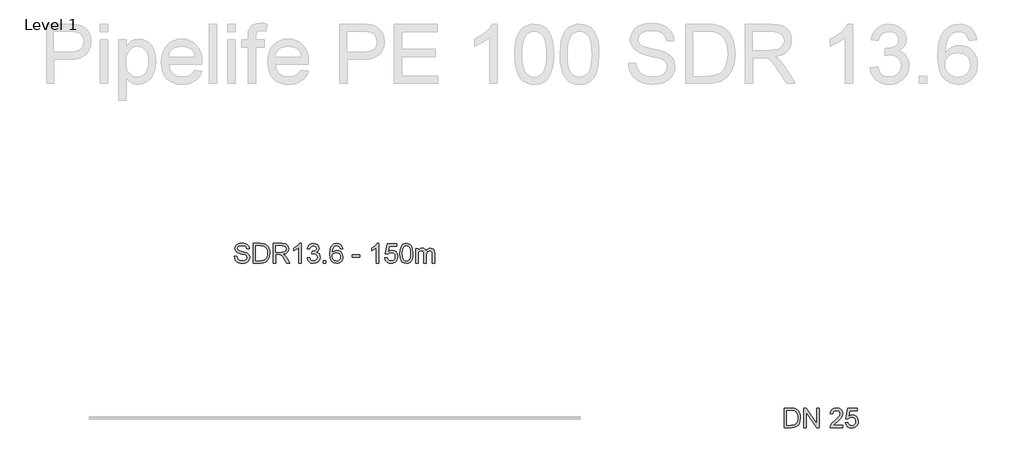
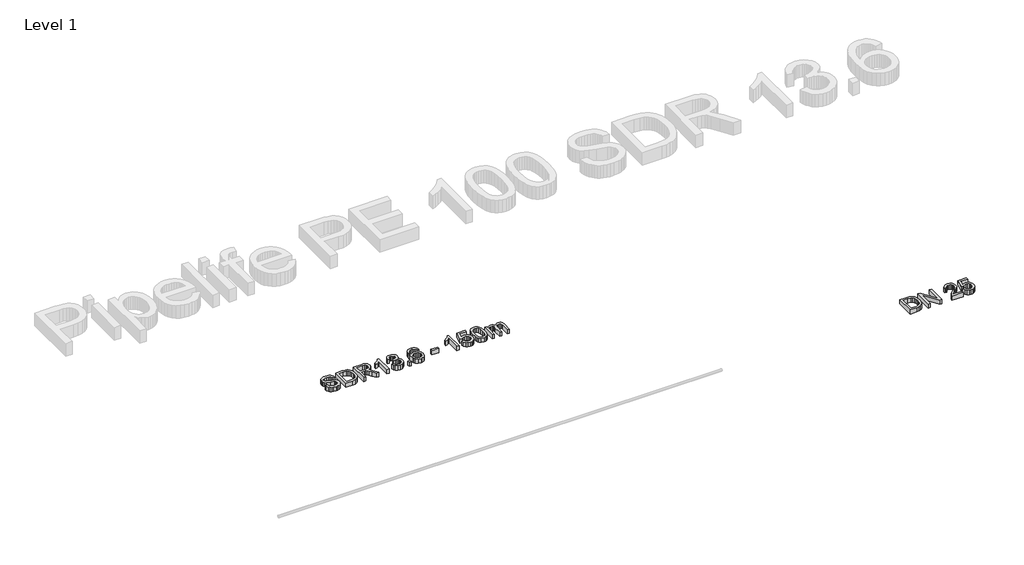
# One storey, part 16 of 26: 2 proxies.
"""IFC4 building model written with IfcOpenShell, lengths in millimetres."""

import ifcopenshell
import ifcopenshell.guid

model = None  # the IFC model being written
_history = None  # IfcOwnerHistory: only IFC2X3 demands one
_inside = {}  # id of a spatial element -> (the spatial element, [elements in it])
_under = {}  # id of a project, library or spatial element -> (it, [spatial elements below it])
_declared = {}  # id of a project -> (the project, [libraries it declares])
_typed = {}  # id of a type object -> (the type object, [elements of that type])
_made_of = {}  # id of a material, layer set ... -> (it, [elements and type objects made of it])


def new_model(schema):
    """Start an empty IFC model of exactly this schema.

    Asked for "IFC4X3", IfcOpenShell would pick the latest addendum, in which some entities
    have other attributes; the version numbers below select the first issue.
    IFC2X3 requires an IfcOwnerHistory on every rooted entity: one is made here for all.
    """
    global model, _history
    if schema == "IFC4X3":
        model = ifcopenshell.file(schema_version=(4, 3, 0, 0))
    else:
        model = ifcopenshell.file(schema=schema)
    _inside.clear()
    _under.clear()
    _declared.clear()
    _typed.clear()
    _made_of.clear()
    _history = None
    if model.schema == "IFC2X3":
        org = make("IfcOrganization", Name="unknown")
        user = make(
            "IfcPersonAndOrganization",
            ThePerson=make("IfcPerson", FamilyName="unknown"),
            TheOrganization=org,
        )
        app = make(
            "IfcApplication",
            ApplicationDeveloper=org,
            Version="unknown",
            ApplicationFullName="unknown",
            ApplicationIdentifier="unknown",
        )
        _history = make(
            "IfcOwnerHistory",
            OwningUser=user,
            OwningApplication=app,
            ChangeAction="ADDED",
            CreationDate=0,
        )
    return model


def make(cls, **values):
    """One entity of the class cls with the attributes given. An attribute that is None is left unset."""
    return model.create_entity(
        cls, **{name: value for name, value in values.items() if value is not None}
    )


def rooted(cls, **values):
    """An entity with a GlobalId (a new one), such as an element, a storey or a relation."""
    return make(cls, GlobalId=ifcopenshell.guid.new(), OwnerHistory=_history, **values)


def si_unit(unit_type, name, prefix=None):
    """IfcSIUnit, for example si_unit("LENGTHUNIT", "METRE", prefix="MILLI")."""
    return make("IfcSIUnit", UnitType=unit_type, Prefix=prefix, Name=name)


def assignment(units):
    """IfcUnitAssignment: the units of a project."""
    return None if units is None else make("IfcUnitAssignment", Units=units)


def point(xyz):
    """IfcCartesianPoint."""
    return None if xyz is None else make("IfcCartesianPoint", Coordinates=xyz)


def direction(xyz):
    """IfcDirection."""
    return None if xyz is None else make("IfcDirection", DirectionRatios=xyz)


def frame(location, z_axis=None, x_axis=None):
    """IfcAxis2Placement3D, a coordinate frame: its origin and axes. An axis left out is left unset."""
    return make(
        "IfcAxis2Placement3D",
        Location=point(location),
        Axis=direction(z_axis),
        RefDirection=direction(x_axis),
    )


def origin():
    """The frame at (0, 0, 0) with its axes left unset."""
    return frame((0.0, 0.0, 0.0))


def origin_with_axes():
    """The frame at (0, 0, 0) with the z axis (0, 0, 1) and the x axis (1, 0, 0) written out."""
    return frame((0.0, 0.0, 0.0), z_axis=(0.0, 0.0, 1.0), x_axis=(1.0, 0.0, 0.0))


def place(relative_to, where):
    """IfcLocalPlacement: puts the frame where relative to a parent placement (None: the world)."""
    return make(
        "IfcLocalPlacement", PlacementRelTo=relative_to, RelativePlacement=where
    )


def context(
    kind, dimensions, precision=None, world=None, true_north=None, identifier=None
):
    """IfcGeometricRepresentationContext, for example the 3D "Model" context."""
    return make(
        "IfcGeometricRepresentationContext",
        ContextIdentifier=identifier,
        ContextType=kind,
        CoordinateSpaceDimension=dimensions,
        Precision=precision,
        WorldCoordinateSystem=world,
        TrueNorth=true_north,
    )


def project(units=None, contexts=None):
    """IfcProject with its units and contexts."""
    return rooted(
        "IfcProject",
        Name="project",
        RepresentationContexts=contexts,
        UnitsInContext=assignment(units),
    )


def spatial(cls, under=None, at=None, **own):
    """A site, building, storey or space (cls), placed at a placement, below another one or the project."""
    s = rooted(cls, ObjectPlacement=at, **own)
    if under is not None:
        _under.setdefault(under.id(), (under, []))[1].append(s)
    return s


def polyline(points):
    """IfcPolyline through the points."""
    return make("IfcPolyline", Points=[point(p) for p in points])


def outline(outer, holes=None, kind="AREA"):
    """IfcArbitraryClosedProfileDef: a profile drawn as a closed curve; with holes, ...WithVoids."""
    if holes is None:
        return make("IfcArbitraryClosedProfileDef", ProfileType=kind, OuterCurve=outer)
    return make(
        "IfcArbitraryProfileDefWithVoids",
        ProfileType=kind,
        OuterCurve=outer,
        InnerCurves=holes,
    )


def extrude(swept, where, along, depth):
    """IfcExtrudedAreaSolid: the profile swept, set in the frame where, extruded along a direction by depth."""
    return make(
        "IfcExtrudedAreaSolid",
        SweptArea=swept,
        Position=where,
        ExtrudedDirection=direction(along),
        Depth=depth,
    )


def shape(context_of_items, identifier, shape_type, items):
    """IfcShapeRepresentation: the items that make up one representation, for example the "Body"."""
    return make(
        "IfcShapeRepresentation",
        ContextOfItems=context_of_items,
        RepresentationIdentifier=identifier,
        RepresentationType=shape_type,
        Items=items,
    )


def made_of(thing, what):
    """Note that an element or type object is made of a material, layer set ...; save() writes the relation."""
    if what is not None:
        _made_of.setdefault(what.id(), (what, []))[1].append(thing)
    return thing


def element(
    cls,
    number,
    at=None,
    inside=None,
    cuts=None,
    type_object=None,
    material=None,
    context=None,
    identifier="Body",
    shape_type=None,
    held_by="IfcProductDefinitionShape",
    body=None,
    shapes=None,
    **own,
):
    """One element of the class cls, such as IfcWall. Its Tag is "e" and its number.

    at: its placement. inside: the storey or other place that contains it. cuts: it is an
    opening in that element (IfcRelVoidsElement). A single representation is given by context,
    identifier, shape_type and body (its items); several are given by shapes. held_by: the class
    of the entity that holds the representations. save() writes the other relations.
    """
    e = rooted(cls, Tag="e%d" % number, ObjectPlacement=at, **own)
    if body is not None:
        shapes = [shape(context, identifier, shape_type, body)]
    if shapes is not None:
        e.Representation = make(held_by, Representations=shapes)
    if inside is not None:
        _inside.setdefault(inside.id(), (inside, []))[1].append(e)
    if cuts is not None:
        rooted(
            "IfcRelVoidsElement", RelatingBuildingElement=cuts, RelatedOpeningElement=e
        )
    if type_object is not None:
        _typed.setdefault(type_object.id(), (type_object, []))[1].append(e)
    return made_of(e, material)


def aggregate(whole, parts):
    """IfcRelAggregates: a whole, such as a stair, and the parts it consists of."""
    return rooted("IfcRelAggregates", RelatingObject=whole, RelatedObjects=parts)


def save(model, path):
    """Write the relations noted so far, then the file.

    IfcRelAggregates (storeys below a building ...), IfcRelContainedInSpatialStructure (elements
    in a storey), IfcRelDefinesByType, IfcRelAssociatesMaterial and IfcRelDeclares: one each for
    every whole, place, type object, material and project.
    """
    for whole, parts in _under.values():
        aggregate(whole, parts)
    for where, things in _inside.values():
        rooted(
            "IfcRelContainedInSpatialStructure",
            RelatedElements=things,
            RelatingStructure=where,
        )
    for kind, things in _typed.values():
        rooted("IfcRelDefinesByType", RelatedObjects=things, RelatingType=kind)
    for what, things in _made_of.values():
        rooted("IfcRelAssociatesMaterial", RelatedObjects=things, RelatingMaterial=what)
    for by, libraries in _declared.values():
        rooted("IfcRelDeclares", RelatingContext=by, RelatedDefinitions=libraries)
    model.write(path)


model = new_model("IFC4")

# Units and contexts
model_context = context("Model", 3, world=origin())
ifc_project = project(units=[si_unit("LENGTHUNIT", "METRE", prefix="MILLI")], contexts=[model_context])

# Site, building, storey
site = spatial("IfcSite", under=ifc_project)
building = spatial("IfcBuilding", under=site)
storey = spatial("IfcBuildingStorey", under=building, Name="Level 1", Elevation=0.0)

# Proxies
placement = place(None, origin())
element("IfcBuildingElementProxy", 1, Name="200mm Arial", ObjectType="200mm Arial", at=placement, inside=storey, context=model_context, shape_type="SweptSolid", body=[
    extrude(outline(polyline([(-15056.0657849, -27668.9871574), (-15030.9517073, -27668.9871574), (-15022.8583034, -27694.1257604), (-15014.7281113, -27703.016242), (-15003.0907776, -27710.0182626), (-14988.8660071, -27714.5616053), (-14972.9735049, -27716.0760528), (-14946.7312559, -27711.4897906), (-14929.7841587, -27698.8837009), (-14924.2168778, -27682.0347055), (-14928.3862071, -27666.3629325), (-14934.7383029, -27660.1641209), (-14945.4559316, -27654.9585907), (-14982.023402, -27645.3691333), (-15021.3867755, -27632.9837728), (-15033.8886319, -27624.5347497), (-15042.7484566, -27614.2953675), (-15048.0275633, -27602.4863554), (-15049.7872655, -27589.3284427), (-15047.6106303, -27574.6192943), (-15041.0807249, -27560.9034272), (-15030.3692275, -27549.2783562), (-15015.6478163, -27540.8415958), (-14997.9772178, -27535.7096419), (-14978.4181584, -27533.9989907), (-14957.2281555, -27535.7893497), (-14938.6869029, -27541.1604268), (-14923.4565883, -27550.0018575), (-14912.1993993, -27562.203277), (-14905.0747513, -27577.0043959), (-14902.2420599, -27593.6449248), (-14927.3561375, -27593.6449248), (-14931.9669252, -27578.6598649), (-14941.580908, -27567.8441342), (-14956.6027561, -27561.2958347), (-14977.4371398, -27559.1130682), (-14998.7620327, -27561.2713092), (-15013.3914734, -27567.7460324), (-15021.8527593, -27577.274176), (-15024.6731879, -27588.5926788), (-15022.6743624, -27598.2434498), (-15016.6778859, -27606.0057599), (-15002.5021664, -27612.9464668), (-14975.6713062, -27620.0343266), (-14931.2311612, -27632.6404163), (-14916.9144202, -27641.7516271), (-14906.926424, -27652.9965534), (-14901.0587062, -27666.2525679), (-14899.1028003, -27681.3970434), (-14901.3530118, -27696.878744), (-14908.1036464, -27711.4407397), (-14919.0787926, -27723.973253), (-14934.0025389, -27733.3665066), (-14951.9490489, -27739.2342244), (-14971.9924862, -27741.1901304), (-14996.5976603, -27739.0809402), (-15016.8495642, -27732.7533699), (-15032.9811897, -27722.1828939), (-15045.2255287, -27707.3449868), (-15053.0859407, -27689.2697181), (-15056.0657849, -27668.9871574)])), origin_with_axes(), (0.0, 0.0, 1.0), 50.0),
    extrude(outline(polyline([(-14861.431684, -27738.0508707), (-14861.431684, -27537.1382504), (-14792.1227161, -27537.1382504), (-14756.2664843, -27540.0322554), (-14740.2513547, -27545.611799), (-14726.7378228, -27554.4041787), (-14712.8441461, -27569.7080697), (-14702.9481204, -27588.7398315), (-14697.0252203, -27611.1315823), (-14695.0509203, -27636.51544), (-14700.3974719, -27677.0560359), (-14714.1317331, -27706.3149172), (-14732.4767819, -27724.5373387), (-14756.4872135, -27734.6173054), (-14788.7872526, -27738.0508707), (-14861.431684, -27738.0508707)]), holes=[polyline([(-14836.3176064, -27712.9367931), (-14791.8774614, -27712.9367931), (-14759.5528968, -27709.3070241), (-14740.9135423, -27699.0553792), (-14732.1886077, -27688.1844662), (-14725.6341768, -27674.1129799), (-14721.5322926, -27656.7796066), (-14720.1649978, -27636.1230325), (-14722.844405, -27608.7526121), (-14730.8826266, -27588.5436278), (-14742.7590837, -27574.6622139), (-14756.9531973, -27566.2745044), (-14792.5641745, -27562.2523279), (-14836.3176064, -27562.2523279), (-14836.3176064, -27712.9367931)])]), origin_with_axes(), (0.0, 0.0, 1.0), 50.0),
    extrude(outline(polyline([(-14660.5190637, -27738.0508707), (-14660.5190637, -27537.1382504), (-14573.9441675, -27537.1382504), (-14550.6756313, -27538.4932824), (-14533.7469281, -27542.5583784), (-14521.3738303, -27550.0631711), (-14511.7721103, -27561.7372931), (-14505.6100868, -27576.2134496), (-14503.556079, -27592.1243459), (-14506.9589875, -27611.9163972), (-14517.1677129, -27628.3239342), (-14534.4888235, -27640.3536755), (-14559.2288876, -27647.0123396), (-14544.9550662, -27657.7544938), (-14524.5989292, -27683.6043354), (-14491.0971421, -27738.0508707), (-14520.2824471, -27738.0508707), (-14546.4265942, -27696.4066288), (-14565.3112033, -27668.8400046), (-14578.5794806, -27655.816982), (-14590.5233827, -27651.0345161), (-14605.0915097, -27650.1515993), (-14635.4049861, -27650.1515993), (-14635.4049861, -27738.0508707), (-14660.5190637, -27738.0508707)]), holes=[polyline([(-14635.4049861, -27625.0375217), (-14579.1926173, -27625.0375217), (-14550.5223471, -27621.4813291), (-14541.0923053, -27616.8582787), (-14534.2374374, -27610.1015127), (-14528.6701566, -27593.0563136), (-14531.3250383, -27580.8058432), (-14539.2896835, -27570.934343), (-14552.9932878, -27564.4228317), (-14572.8650469, -27562.2523279), (-14635.4049861, -27562.2523279), (-14635.4049861, -27625.0375217)])]), origin_with_axes(), (0.0, 0.0, 1.0), 50.0),
    extrude(outline(polyline([(-14374.8464317, -27738.0508707), (-14399.9605092, -27738.0508707), (-14399.9605092, -27581.4802935), (-14423.7502116, -27598.4273908), (-14450.1886643, -27611.1070569), (-14450.1886643, -27587.3664054), (-14413.3759393, -27563.8710087), (-14399.9053269, -27550.2961631), (-14391.0332395, -27537.1382504), (-14374.8464317, -27537.1382504), (-14374.8464317, -27738.0508707)])), origin_with_axes(), (0.0, 0.0, 1.0), 50.0),
    extrude(outline(polyline([(-14315.2004975, -27684.6834559), (-14290.08642, -27681.5441962), (-14284.4639568, -27697.3263338), (-14276.2295315, -27707.9826489), (-14264.9784738, -27714.0527018), (-14250.3061136, -27716.0760528), (-14233.0892362, -27713.2924124), (-14219.7964334, -27704.9414911), (-14211.2983593, -27692.4825542), (-14208.465668, -27677.3748669), (-14211.2738339, -27663.0336005), (-14219.6983316, -27651.4023981), (-14232.4515741, -27643.6952703), (-14248.2459744, -27641.1262277), (-14265.8552592, -27643.8730799), (-14263.0593561, -27618.7590024), (-14259.0371796, -27619.053308), (-14243.990806, -27617.2506862), (-14230.5385877, -27611.8428208), (-14221.0472322, -27602.6948219), (-14217.8834471, -27589.6717993), (-14220.1765782, -27578.8254118), (-14227.0559715, -27570.0269007), (-14237.5528711, -27564.1959711), (-14250.698521, -27562.2523279), (-14263.8686965, -27564.2143652), (-14274.6353762, -27570.1004771), (-14282.4957881, -27579.9106637), (-14286.9471603, -27593.6449248), (-14312.0612378, -27590.5056651), (-14304.6668097, -27567.9544988), (-14291.508897, -27551.1177662), (-14273.5072047, -27540.6331293), (-14251.5814378, -27537.1382504), (-14235.7931689, -27538.8611644), (-14221.2924869, -27544.0299064), (-14209.0665419, -27552.184624), (-14200.102484, -27562.8654646), (-14194.6026481, -27575.1711173), (-14192.7693695, -27588.2002713), (-14194.5106776, -27600.3403771), (-14199.734602, -27611.3523115), (-14208.3675661, -27620.7333024), (-14220.3359937, -27627.9805777), (-14204.6151698, -27634.3326735), (-14192.9655732, -27645.1484041), (-14185.7550861, -27659.8391585), (-14183.3515904, -27677.8163253), (-14188.1585818, -27702.2927407), (-14202.5795561, -27722.7469797), (-14224.3459074, -27736.5793427), (-14251.1890304, -27741.1901304), (-14275.469242, -27737.253793), (-14295.2367679, -27725.444781), (-14308.9832918, -27707.381775), (-14315.2004975, -27684.6834559)])), origin_with_axes(), (0.0, 0.0, 1.0), 50.0),
    extrude(outline(polyline([(-14148.8197338, -27738.0508707), (-14148.8197338, -27712.9367931), (-14123.7056563, -27712.9367931), (-14123.7056563, -27738.0508707), (-14148.8197338, -27738.0508707)])), origin_with_axes(), (0.0, 0.0, 1.0), 50.0),
    extrude(outline(polyline([(-13954.1856329, -27590.5056651), (-13979.2997104, -27593.6449248), (-13988.8155914, -27572.7001766), (-14000.2076705, -27564.8642901), (-14013.9787199, -27562.2523279), (-14036.6402508, -27568.3346435), (-14046.0764239, -27577.942495), (-14053.7835517, -27591.1678527), (-14058.989082, -27609.8746522), (-14060.9204624, -27635.9268288), (-14050.8466271, -27624.1729991), (-14038.7739663, -27615.8895228), (-14025.3769303, -27610.9782982), (-14011.3299695, -27609.3412233), (-13988.1288783, -27613.8171209), (-13968.6556581, -27627.2448137), (-13955.4486944, -27647.7603663), (-13951.0463732, -27673.4998432), (-13953.1187751, -27691.4831414), (-13959.3359808, -27708.1543272), (-13969.1829556, -27722.2932585), (-13982.1446645, -27732.6797935), (-13997.6324965, -27739.0625461), (-14015.0578404, -27741.1901304), (-14043.5503009, -27735.5492731), (-14066.2424886, -27718.6267013), (-14074.9015111, -27705.5178396), (-14081.0865271, -27688.7546833), (-14086.03454, -27644.2654874), (-14080.5408355, -27594.2457987), (-14073.6737049, -27575.1680516), (-14064.0597221, -27560.0450359), (-14053.6394646, -27550.0233172), (-14041.5576068, -27542.8649468), (-14012.40909, -27537.1382504), (-13990.3729585, -27540.6821802), (-13972.7268855, -27551.3139699), (-13960.3660504, -27568.1997535), (-13954.1856329, -27590.5056651)]), holes=[polyline([(-14060.9204624, -27673.1074358), (-14055.1079269, -27694.8615244), (-14039.6568831, -27710.6559248), (-14017.0198777, -27716.0760528), (-14000.4467938, -27713.2678869), (-13987.4176398, -27704.8433892), (-13978.974748, -27691.5996374), (-13976.1604508, -27674.3337091), (-13978.9379598, -27657.7606252), (-13987.270487, -27645.1238787), (-14000.5203702, -27637.1224453), (-14018.0499473, -27634.4553008), (-14034.5985057, -27637.1224453), (-14048.4370001, -27645.1238787), (-14057.7995969, -27657.4540569), (-14060.9204624, -27673.1074358)])]), origin_with_axes(), (0.0, 0.0, 1.0), 50.0),
    extrude(outline(polyline([(-13856.8685825, -27678.4049365), (-13856.8685825, -27653.290859), (-13778.3870901, -27653.290859), (-13778.3870901, -27678.4049365), (-13856.8685825, -27678.4049365)])), origin_with_axes(), (0.0, 0.0, 1.0), 50.0),
    extrude(outline(polyline([(-13583.7529892, -27738.0508707), (-13608.8670668, -27738.0508707), (-13608.8670668, -27581.4802935), (-13632.6567691, -27598.4273908), (-13659.0952218, -27611.1070569), (-13659.0952218, -27587.3664054), (-13622.2824969, -27563.8710087), (-13608.8118845, -27550.2961631), (-13599.939797, -27537.1382504), (-13583.7529892, -27537.1382504), (-13583.7529892, -27738.0508707)])), origin_with_axes(), (0.0, 0.0, 1.0), 50.0),
    extrude(outline(polyline([(-13524.1070551, -27684.6834559), (-13498.9929775, -27681.5441962), (-13494.3821899, -27696.6212266), (-13486.3378369, -27707.4185632), (-13474.8967069, -27713.9116804), (-13460.0955879, -27716.0760528), (-13442.0938956, -27713.0655518), (-13428.6048891, -27704.0340488), (-13420.1803914, -27690.0238762), (-13417.3722255, -27672.0773662), (-13420.0025818, -27655.1793199), (-13427.8936506, -27642.2543991), (-13441.1067456, -27634.0506306), (-13459.7031805, -27631.3160411), (-13481.7515747, -27635.6815741), (-13495.8537179, -27647.0123396), (-13520.9677954, -27643.8730799), (-13498.9929775, -27540.2775101), (-13401.6759271, -27540.2775101), (-13401.6759271, -27565.3915876), (-13478.6858914, -27565.3915876), (-13489.4280457, -27620.7210397), (-13471.487667, -27609.8317326), (-13452.6888971, -27606.2019636), (-13429.2241572, -27610.7023867), (-13409.7448055, -27624.2036559), (-13396.6298124, -27644.7805221), (-13392.258148, -27670.5077363), (-13396.1944854, -27695.6218139), (-13408.0034974, -27717.1061224), (-13418.4390833, -27727.6428759), (-13430.6159774, -27735.1691284), (-13444.5341795, -27739.6848799), (-13460.1936898, -27741.1901304), (-13484.8601776, -27737.321238), (-13504.5112075, -27725.7145611), (-13517.9818199, -27707.7190002), (-13524.1070551, -27684.6834559)])), origin_with_axes(), (0.0, 0.0, 1.0), 50.0),
    extrude(outline(polyline([(-13370.2833302, -27639.2132413), (-13368.4377888, -27607.0542235), (-13362.9011648, -27581.4067171), (-13353.7286404, -27561.8783145), (-13340.9753979, -27548.0766083), (-13324.5494668, -27539.8728399), (-13304.3588766, -27537.1382504), (-13288.8833074, -27538.7569311), (-13275.0264189, -27543.6129735), (-13263.438136, -27551.516305), (-13254.7683837, -27562.2768534), (-13242.9961598, -27592.0017186), (-13238.4344231, -27639.2132413), (-13240.2615703, -27671.188318), (-13245.7430121, -27696.7745108), (-13254.8603542, -27716.3213075), (-13267.5952026, -27730.178196), (-13284.0579219, -27738.4371468), (-13304.3588766, -27741.1901304), (-13330.4539728, -27736.4076644), (-13350.2705496, -27722.0602666), (-13359.0261411, -27706.9311195), (-13365.280135, -27688.080233), (-13370.2833302, -27639.2132413)]), holes=[polyline([(-13345.1692526, -27639.1641904), (-13342.2261967, -27678.6685853), (-13333.3970288, -27701.5324513), (-13320.2513788, -27712.4401524), (-13304.3588766, -27716.0760528), (-13288.4663744, -27712.4278897), (-13275.3207245, -27701.4834003), (-13266.4915566, -27678.6072716), (-13263.5485006, -27639.1641904), (-13266.3934547, -27600.5488436), (-13274.928317, -27577.507168), (-13288.0494415, -27566.0660379), (-13304.6531822, -27562.2523279), (-13320.3740062, -27565.6123168), (-13333.0046213, -27575.6922835), (-13342.1280948, -27600.1686989), (-13345.1692526, -27639.1641904)])]), origin_with_axes(), (0.0, 0.0, 1.0), 50.0),
    extrude(outline(polyline([(-13210.1810859, -27738.0508707), (-13210.1810859, -27590.5056651), (-13185.0670083, -27590.5056651), (-13185.0670083, -27614.7858768), (-13177.5131647, -27603.632921), (-13167.80108, -27594.8957236), (-13156.2618481, -27589.248735), (-13143.2265627, -27587.3664054), (-13129.2593097, -27589.2855232), (-13118.0634343, -27595.0428764), (-13109.7002503, -27604.2583204), (-13104.2310713, -27616.5517104), (-13095.0769409, -27603.7831395), (-13084.6352236, -27594.6627317), (-13072.9059194, -27589.190487), (-13059.8890281, -27587.3664054), (-13041.0105504, -27590.4014319), (-13027.0494287, -27599.5065113), (-13018.4225959, -27614.9268982), (-13015.546985, -27636.9078475), (-13015.546985, -27738.0508707), (-13040.6610625, -27738.0508707), (-13040.6610625, -27647.6990526), (-13042.9909818, -27626.7297789), (-13051.4277422, -27616.4045576), (-13065.77514, -27612.480483), (-13079.3806425, -27614.9943433), (-13090.4722846, -27622.5359242), (-13097.8483186, -27635.6202605), (-13100.3069966, -27654.762387), (-13100.3069966, -27738.0508707), (-13125.4210742, -27738.0508707), (-13125.4210742, -27644.9031495), (-13126.8742081, -27630.7029045), (-13131.2336097, -27620.5738869), (-13138.9039493, -27614.5038339), (-13150.2898971, -27612.480483), (-13168.8802005, -27617.8760856), (-13176.2378404, -27624.5224869), (-13181.2410356, -27633.6704859), (-13185.0670083, -27663.6406058), (-13185.0670083, -27738.0508707), (-13210.1810859, -27738.0508707)])), origin_with_axes(), (0.0, 0.0, 1.0), 50.0),
])
element("IfcBuildingElementProxy", 2, Name="200mm Arial", ObjectType="200mm Arial", at=placement, inside=storey, context=model_context, shape_type="SweptSolid", body=[
    extrude(outline(polyline([(-9460.6923074, -29413.949573), (-9460.6923074, -29213.0369527), (-9391.3833395, -29213.0369527), (-9355.5271077, -29215.9309577), (-9339.5119782, -29221.5105013), (-9325.9984462, -29230.302881), (-9312.1047695, -29245.606772), (-9302.2087438, -29264.6385338), (-9296.2858437, -29287.0302846), (-9294.3115437, -29312.4141423), (-9299.6580953, -29352.9547382), (-9313.3923565, -29382.2136195), (-9331.7374053, -29400.436041), (-9355.7478369, -29410.5160077), (-9388.0478761, -29413.949573), (-9460.6923074, -29413.949573)]), holes=[polyline([(-9435.5782298, -29388.8354954), (-9391.1380848, -29388.8354954), (-9358.8135202, -29385.2057264), (-9340.1741658, -29374.9540815), (-9331.4492311, -29364.0831685), (-9324.8948002, -29350.0116822), (-9320.792916, -29332.6783089), (-9319.4256212, -29312.0217348), (-9322.1050284, -29284.6513144), (-9330.14325, -29264.4423301), (-9342.0197071, -29250.5609162), (-9356.2138207, -29242.1732067), (-9391.8247979, -29238.1510302), (-9435.5782298, -29238.1510302), (-9435.5782298, -29388.8354954)])]), origin_with_axes(), (0.0, 0.0, 1.0), 50.0),
    extrude(outline(polyline([(-9259.7796871, -29413.949573), (-9259.7796871, -29213.0369527), (-9232.899776, -29213.0369527), (-9127.93078, -29372.2072292), (-9127.93078, -29213.0369527), (-9102.8167025, -29213.0369527), (-9102.8167025, -29413.949573), (-9129.6966136, -29413.949573), (-9234.6656095, -29254.7302454), (-9234.6656095, -29413.949573), (-9259.7796871, -29413.949573)])), origin_with_axes(), (0.0, 0.0, 1.0), 50.0),
    extrude(outline(polyline([(-8861.0937062, -29388.8354954), (-8861.0937062, -29413.949573), (-8992.9426132, -29413.949573), (-8990.2448119, -29396.6345937), (-8974.9899719, -29369.9754118), (-8943.548324, -29340.8636832), (-8900.1872995, -29299.0232377), (-8892.0571074, -29284.6022634), (-8889.3470434, -29270.5736967), (-8891.9038233, -29257.9982638), (-8899.5741629, -29247.5442838), (-8911.3647808, -29240.4993436), (-8926.2823957, -29238.1510302), (-8941.9480373, -29240.4441613), (-8954.1188, -29247.3235546), (-8961.9730806, -29258.2496499), (-8964.689276, -29272.6828868), (-8989.8033535, -29269.5436271), (-8983.7149065, -29245.2511527), (-8970.5508625, -29227.5069778), (-8950.9979344, -29216.6544589), (-8925.7428355, -29213.0369527), (-8900.3037955, -29217.0591291), (-8880.7876556, -29229.1256586), (-8868.3716383, -29247.1518763), (-8864.2329659, -29269.0531178), (-8868.6966007, -29292.8673456), (-8883.5345079, -29317.4909138), (-8919.513367, -29351.9001431), (-8948.4043664, -29376.0577275), (-8959.7351318, -29388.8354954), (-8861.0937062, -29388.8354954)])), origin_with_axes(), (0.0, 0.0, 1.0), 50.0),
    extrude(outline(polyline([(-8835.9796286, -29360.5821582), (-8810.8655511, -29357.4428985), (-8806.2547634, -29372.5199289), (-8798.2104105, -29383.3172655), (-8786.7692804, -29389.8103827), (-8771.9681615, -29391.9747551), (-8753.9664692, -29388.9642541), (-8740.4774627, -29379.9327511), (-8732.052965, -29365.9225785), (-8729.2447991, -29347.9760685), (-8731.8751554, -29331.0780222), (-8739.7662242, -29318.1531014), (-8752.9793191, -29309.9493329), (-8771.575754, -29307.2147434), (-8793.6241482, -29311.5802764), (-8807.7262914, -29322.9110419), (-8832.8403689, -29319.7717822), (-8810.8655511, -29216.1762123), (-8713.5485006, -29216.1762123), (-8713.5485006, -29241.2902899), (-8790.558465, -29241.2902899), (-8801.3006192, -29296.619742), (-8783.3602406, -29285.7304349), (-8764.5614706, -29282.1006659), (-8741.0967307, -29286.601089), (-8721.6173791, -29300.1023582), (-8708.5023859, -29320.6792244), (-8704.1307216, -29346.4064386), (-8708.0670589, -29371.5205162), (-8719.876071, -29393.0048247), (-8730.3116569, -29403.5415782), (-8742.4885509, -29411.0678307), (-8756.4067531, -29415.5835821), (-8772.0662633, -29417.0888326), (-8796.7327511, -29413.2199403), (-8816.383781, -29401.6132634), (-8829.8543934, -29383.6177025), (-8835.9796286, -29360.5821582)])), origin_with_axes(), (0.0, 0.0, 1.0), 50.0),
])

save(model, "model.ifc")
